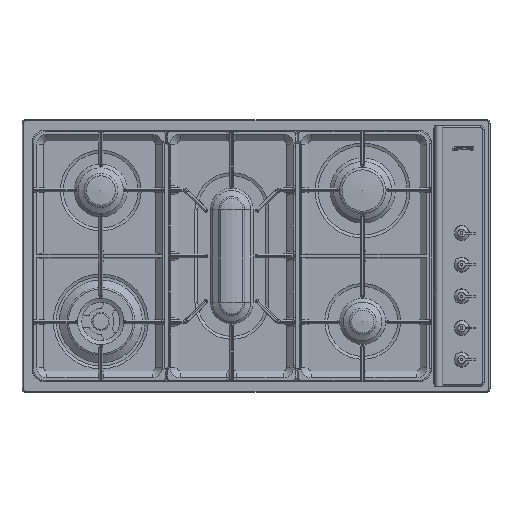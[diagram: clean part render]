
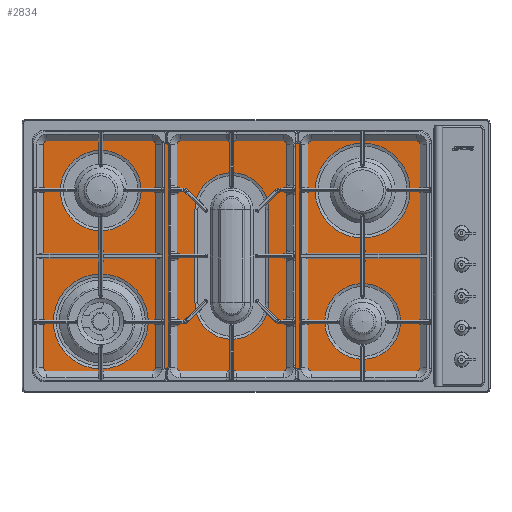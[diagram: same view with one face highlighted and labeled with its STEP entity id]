
A CAD part, top view. The second image highlights one B-rep face of the part: STEP entity #2834.
In plain terms, the highlighted planar face has unit normal (0, 0, 1).
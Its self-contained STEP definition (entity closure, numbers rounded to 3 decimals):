
#1675=FACE_BOUND('',#6255,.T.);
#1676=FACE_BOUND('',#6256,.T.);
#1677=FACE_BOUND('',#6257,.T.);
#1678=FACE_BOUND('',#6258,.T.);
#1679=FACE_BOUND('',#6259,.T.);
#1680=FACE_BOUND('',#6260,.T.);
#2834=ADVANCED_FACE('',(#1675,#1676,#1677,#1678,#1679,#1680),#3792,.T.);
#3792=PLANE('',#25468);
#6255=EDGE_LOOP('',(#11135,#11136,#11137,#11138,#11139,#11140,#11141,#11142));
#6256=EDGE_LOOP('',(#11143));
#6257=EDGE_LOOP('',(#11144));
#6258=EDGE_LOOP('',(#11145));
#6259=EDGE_LOOP('',(#11146));
#6260=EDGE_LOOP('',(#11147,#11148,#11149,#11150));
#11135=ORIENTED_EDGE('',*,*,#17699,.T.);
#11136=ORIENTED_EDGE('',*,*,#17700,.T.);
#11137=ORIENTED_EDGE('',*,*,#17701,.T.);
#11138=ORIENTED_EDGE('',*,*,#17702,.T.);
#11139=ORIENTED_EDGE('',*,*,#17703,.T.);
#11140=ORIENTED_EDGE('',*,*,#17704,.T.);
#11141=ORIENTED_EDGE('',*,*,#17705,.T.);
#11142=ORIENTED_EDGE('',*,*,#17706,.T.);
#11143=ORIENTED_EDGE('',*,*,#17707,.F.);
#11144=ORIENTED_EDGE('',*,*,#17708,.F.);
#11145=ORIENTED_EDGE('',*,*,#17709,.F.);
#11146=ORIENTED_EDGE('',*,*,#17710,.F.);
#11147=ORIENTED_EDGE('',*,*,#17711,.F.);
#11148=ORIENTED_EDGE('',*,*,#17712,.F.);
#11149=ORIENTED_EDGE('',*,*,#17713,.F.);
#11150=ORIENTED_EDGE('',*,*,#17714,.F.);
#14839=VERTEX_POINT('',#40109);
#14840=VERTEX_POINT('',#40110);
#14841=VERTEX_POINT('',#40112);
#14842=VERTEX_POINT('',#40114);
#14843=VERTEX_POINT('',#40116);
#14844=VERTEX_POINT('',#40118);
#14845=VERTEX_POINT('',#40120);
#14846=VERTEX_POINT('',#40122);
#14847=VERTEX_POINT('',#40125);
#14848=VERTEX_POINT('',#40127);
#14849=VERTEX_POINT('',#40129);
#14850=VERTEX_POINT('',#40131);
#14851=VERTEX_POINT('',#40133);
#14852=VERTEX_POINT('',#40134);
#14853=VERTEX_POINT('',#40136);
#14854=VERTEX_POINT('',#40138);
#17699=EDGE_CURVE('',#14839,#14840,#21336,.T.);
#17700=EDGE_CURVE('',#14840,#14841,#19428,.T.);
#17701=EDGE_CURVE('',#14841,#14842,#21337,.T.);
#17702=EDGE_CURVE('',#14842,#14843,#19429,.T.);
#17703=EDGE_CURVE('',#14843,#14844,#21338,.T.);
#17704=EDGE_CURVE('',#14844,#14845,#19430,.T.);
#17705=EDGE_CURVE('',#14845,#14846,#21339,.T.);
#17706=EDGE_CURVE('',#14846,#14839,#19431,.T.);
#17707=EDGE_CURVE('',#14847,#14847,#19432,.T.);
#17708=EDGE_CURVE('',#14848,#14848,#19433,.T.);
#17709=EDGE_CURVE('',#14849,#14849,#19434,.T.);
#17710=EDGE_CURVE('',#14850,#14850,#19435,.T.);
#17711=EDGE_CURVE('',#14851,#14852,#21340,.T.);
#17712=EDGE_CURVE('',#14853,#14851,#19436,.T.);
#17713=EDGE_CURVE('',#14854,#14853,#21341,.T.);
#17714=EDGE_CURVE('',#14852,#14854,#19437,.T.);
#19428=CIRCLE('',#25458,16.416);
#19429=CIRCLE('',#25459,16.416);
#19430=CIRCLE('',#25460,16.416);
#19431=CIRCLE('',#25461,16.416);
#19432=CIRCLE('',#25462,87.);
#19433=CIRCLE('',#25463,74.);
#19434=CIRCLE('',#25464,87.);
#19435=CIRCLE('',#25465,69.5);
#19436=CIRCLE('',#25466,67.5);
#19437=CIRCLE('',#25467,67.5);
#21336=LINE('',#40108,#23259);
#21337=LINE('',#40113,#23260);
#21338=LINE('',#40117,#23261);
#21339=LINE('',#40121,#23262);
#21340=LINE('',#40132,#23263);
#21341=LINE('',#40137,#23264);
#23259=VECTOR('',#30899,1.);
#23260=VECTOR('',#30902,1.);
#23261=VECTOR('',#30905,1.);
#23262=VECTOR('',#30908,1.);
#23263=VECTOR('',#30919,1.);
#23264=VECTOR('',#30922,1.);
#25458=AXIS2_PLACEMENT_3D('',#40111,#30900,#30901);
#25459=AXIS2_PLACEMENT_3D('',#40115,#30903,#30904);
#25460=AXIS2_PLACEMENT_3D('',#40119,#30906,#30907);
#25461=AXIS2_PLACEMENT_3D('',#40123,#30909,#30910);
#25462=AXIS2_PLACEMENT_3D('',#40124,#30911,#30912);
#25463=AXIS2_PLACEMENT_3D('',#40126,#30913,#30914);
#25464=AXIS2_PLACEMENT_3D('',#40128,#30915,#30916);
#25465=AXIS2_PLACEMENT_3D('',#40130,#30917,#30918);
#25466=AXIS2_PLACEMENT_3D('',#40135,#30920,#30921);
#25467=AXIS2_PLACEMENT_3D('',#40139,#30923,#30924);
#25468=AXIS2_PLACEMENT_3D('',#40140,#30925,#30926);
#30899=DIRECTION('',(-1.,0.,0.));
#30900=DIRECTION('',(0.,0.,1.));
#30901=DIRECTION('',(1.,0.,0.));
#30902=DIRECTION('',(0.,-1.,0.));
#30903=DIRECTION('',(0.,0.,1.));
#30904=DIRECTION('',(1.,0.,0.));
#30905=DIRECTION('',(1.,0.,0.));
#30906=DIRECTION('',(0.,0.,1.));
#30907=DIRECTION('',(1.,0.,0.));
#30908=DIRECTION('',(0.,1.,0.));
#30909=DIRECTION('',(0.,0.,1.));
#30910=DIRECTION('',(1.,0.,0.));
#30911=DIRECTION('',(0.,0.,1.));
#30912=DIRECTION('',(-1.,0.,0.));
#30913=DIRECTION('',(0.,0.,1.));
#30914=DIRECTION('',(-1.,0.,0.));
#30915=DIRECTION('',(0.,0.,1.));
#30916=DIRECTION('',(-1.,0.,0.));
#30917=DIRECTION('',(0.,0.,1.));
#30918=DIRECTION('',(-1.,0.,0.));
#30919=DIRECTION('',(0.,-1.,0.));
#30920=DIRECTION('',(0.,0.,1.));
#30921=DIRECTION('',(-1.,0.,0.));
#30922=DIRECTION('',(0.,1.,0.));
#30923=DIRECTION('',(0.,0.,1.));
#30924=DIRECTION('',(-1.,0.,0.));
#30925=DIRECTION('',(0.,0.,1.));
#30926=DIRECTION('',(1.,0.,0.));
#40108=CARTESIAN_POINT('',(299.5,224.416,3.5));
#40109=CARTESIAN_POINT('',(299.5,224.416,3.5));
#40110=CARTESIAN_POINT('',(-388.5,224.416,3.5));
#40111=CARTESIAN_POINT('',(-388.5,208.,3.5));
#40112=CARTESIAN_POINT('',(-404.916,208.,3.5));
#40113=CARTESIAN_POINT('',(-404.916,-208.,3.5));
#40114=CARTESIAN_POINT('',(-404.916,-208.,3.5));
#40115=CARTESIAN_POINT('',(-388.5,-208.,3.5));
#40116=CARTESIAN_POINT('',(-388.5,-224.416,3.5));
#40117=CARTESIAN_POINT('',(299.5,-224.416,3.5));
#40118=CARTESIAN_POINT('',(299.5,-224.416,3.5));
#40119=CARTESIAN_POINT('',(299.5,-208.,3.5));
#40120=CARTESIAN_POINT('',(315.916,-208.,3.5));
#40121=CARTESIAN_POINT('',(315.916,-208.,3.5));
#40122=CARTESIAN_POINT('',(315.916,208.,3.5));
#40123=CARTESIAN_POINT('',(299.5,208.,3.5));
#40124=CARTESIAN_POINT('',(-284.5,-120.,3.5));
#40125=CARTESIAN_POINT('',(-371.5,-120.,3.5));
#40126=CARTESIAN_POINT('',(-284.5,120.,3.5));
#40127=CARTESIAN_POINT('',(-358.5,120.,3.5));
#40128=CARTESIAN_POINT('',(195.5,120.,3.5));
#40129=CARTESIAN_POINT('',(108.5,120.,3.5));
#40130=CARTESIAN_POINT('',(195.5,-120.,3.5));
#40131=CARTESIAN_POINT('',(126.,-120.,3.5));
#40132=CARTESIAN_POINT('',(-112.,85.25,3.5));
#40133=CARTESIAN_POINT('',(-112.,85.25,3.5));
#40134=CARTESIAN_POINT('',(-112.,-85.25,3.5));
#40135=CARTESIAN_POINT('',(-44.5,85.25,3.5));
#40136=CARTESIAN_POINT('',(23.,85.25,3.5));
#40137=CARTESIAN_POINT('',(23.,-85.25,3.5));
#40138=CARTESIAN_POINT('',(23.,-85.25,3.5));
#40139=CARTESIAN_POINT('',(-44.5,-85.25,3.5));
#40140=CARTESIAN_POINT('',(299.5,-208.,3.5));
